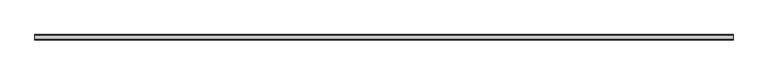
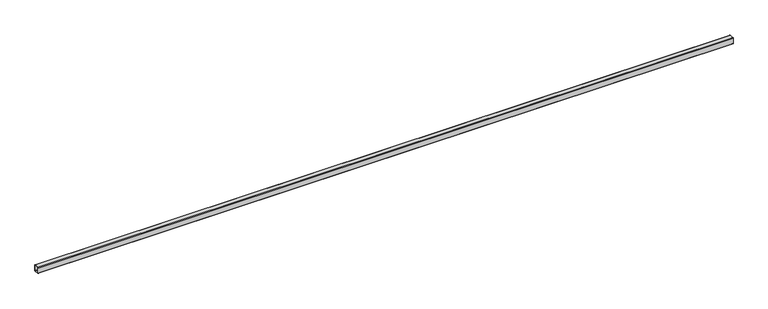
"""IFC4 building model written with IfcOpenShell, lengths in millimetres: beam geometry, Труба прямоугольного сечения (ТУ 67-2287-80) Балки : труба200x160x8."""

from ifc_helpers import new_model, si_unit, point, frame, frame_2d, origin, place, context, project, spatial, polyline, circle_curve, trimmed, segment, composite_curve, outline, extrude, source, transform, mapped, element, save


def beam_e48d803c(model_context):
    return source(origin(), model_context, "Body", "SweptSolid", [
        extrude(outline(composite_curve([segment(polyline([(-64.0, 100.0), (64.0, 100.0)]), True, "CONTINUOUS"), segment(trimmed(circle_curve(frame_2d((64.0, 84.0)), 16.0), [point((64.0, 100.0))], [point((80.0, 84.0))], False, "CARTESIAN"), True, "CONTINUOUS"), segment(polyline([(80.0, 84.0), (80.0, -84.0)]), True, "CONTINUOUS"), segment(trimmed(circle_curve(frame_2d((64.0, -84.0)), 16.0), [point((80.0, -84.0))], [point((64.0, -100.0))], False, "CARTESIAN"), True, "CONTINUOUS"), segment(polyline([(64.0, -100.0), (-64.0, -100.0)]), True, "CONTINUOUS"), segment(trimmed(circle_curve(frame_2d((-64.0, -84.0)), 16.0), [point((-64.0, -100.0))], [point((-80.0, -84.0))], False, "CARTESIAN"), True, "CONTINUOUS"), segment(polyline([(-80.0, -84.0), (-80.0, 84.0)]), True, "CONTINUOUS"), segment(trimmed(circle_curve(frame_2d((-64.0, 84.0)), 16.0), [point((-80.0, 84.0))], [point((-64.0, 100.0))], False, "CARTESIAN"), True, "CONTINUOUS")], self_intersect=False), holes=[composite_curve([segment(trimmed(circle_curve(frame_2d((-64.0, 84.0)), 8.0), [point((-64.0, 92.0))], [point((-72.0, 84.0))], True, "CARTESIAN"), True, "CONTINUOUS"), segment(polyline([(-72.0, 84.0), (-72.0, -84.0)]), True, "CONTINUOUS"), segment(trimmed(circle_curve(frame_2d((-64.0, -84.0)), 8.0), [point((-72.0, -84.0))], [point((-64.0, -92.0))], True, "CARTESIAN"), True, "CONTINUOUS"), segment(polyline([(-64.0, -92.0), (64.0, -92.0)]), True, "CONTINUOUS"), segment(trimmed(circle_curve(frame_2d((64.0, -84.0)), 8.0), [point((64.0, -92.0))], [point((72.0, -84.0))], True, "CARTESIAN"), True, "CONTINUOUS"), segment(polyline([(72.0, -84.0), (72.0, 84.0)]), True, "CONTINUOUS"), segment(trimmed(circle_curve(frame_2d((64.0, 84.0)), 8.0), [point((72.0, 84.0))], [point((64.0, 92.0))], True, "CARTESIAN"), True, "CONTINUOUS"), segment(polyline([(64.0, 92.0), (-64.0, 92.0)]), True, "CONTINUOUS")], self_intersect=False)]), frame((-10790.0, 0.0, 0.0), z_axis=(1.0, 0.0, 0.0), x_axis=(0.0, 1.0, 0.0)), (0.0, 0.0, 1.0), 21500.0),
    ])


if __name__ == "__main__":
    model = new_model("IFC4")
    model_context = context("Model", 3, world=origin())
    ifc_project = project(units=[si_unit("LENGTHUNIT", "METRE", prefix="MILLI")], contexts=[model_context])
    site = spatial("IfcSite", under=ifc_project)
    building = spatial("IfcBuilding", under=site)
    placement = place(None, origin())
    beam_shape = beam_e48d803c(model_context)
    element("IfcBeam", 1, ObjectType="Труба прямоугольного сечения (ТУ 67-2287-80) Балки : труба200x160x8", at=placement, inside=building, context=model_context, shape_type="MappedRepresentation", body=[
        mapped(beam_shape, transform((0.0, 0.0, 0.0), x_axis=(1.0, 0.0, 0.0), y_axis=(0.0, 1.0, 0.0), z_axis=(0.0, 0.0, 1.0))),
    ])
    save(model, "model.ifc")
